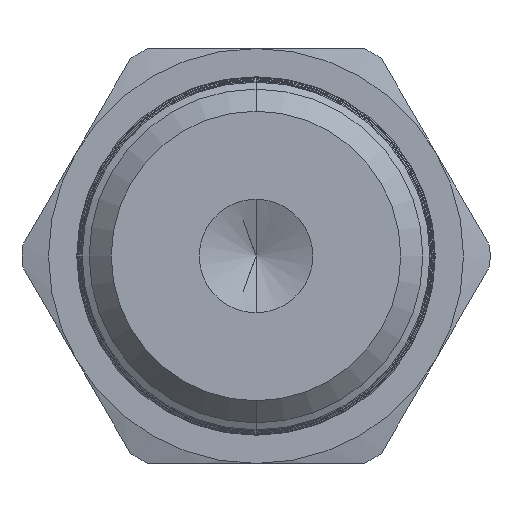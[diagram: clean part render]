
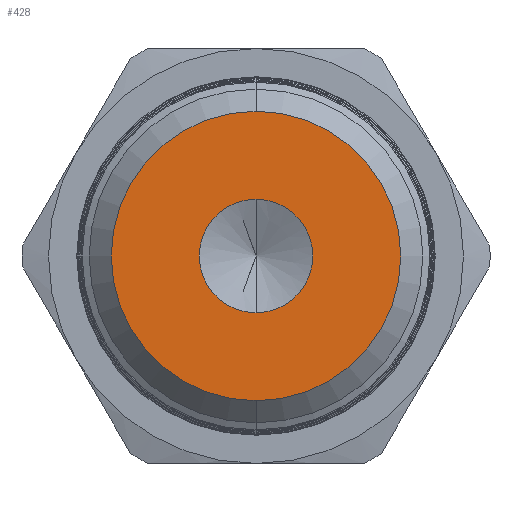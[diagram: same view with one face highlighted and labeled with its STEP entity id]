
A CAD part, left-side view. The second image highlights one B-rep face of the part: STEP entity #428.
In plain terms, the highlighted planar face has unit normal (-1, 0, 0).
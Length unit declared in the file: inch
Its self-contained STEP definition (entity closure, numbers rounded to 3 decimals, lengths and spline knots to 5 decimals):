
#428 = ADVANCED_FACE ( 'NONE', ( #2066, #2081 ), #2064, .F. ) ;
#924 = AXIS2_PLACEMENT_3D ( 'NONE', #2073, #2062, #2061 ) ;
#2061 = DIRECTION ( 'NONE',  ( 0., 0., -1. ) ) ;
#2062 = DIRECTION ( 'NONE',  ( 1., 0., 0. ) ) ;
#2064 = PLANE ( 'NONE',  #924 ) ;
#2066 = FACE_OUTER_BOUND ( 'NONE', #8168, .T. ) ;
#2073 = CARTESIAN_POINT ( 'NONE',  ( -0.1385, 0.36084, 0. ) ) ;
#2081 = FACE_BOUND ( 'NONE', #8183, .T. ) ;
#2228 = EDGE_CURVE ( 'NONE', #16257, #16228, #16932, .T. ) ;
#2450 = EDGE_CURVE ( 'NONE', #16287, #16173, #16783, .T. ) ;
#2457 = EDGE_CURVE ( 'NONE', #16228, #16257, #16791, .T. ) ;
#2472 = EDGE_CURVE ( 'NONE', #16173, #16287, #16805, .T. ) ;
#6527 = DIRECTION ( 'NONE',  ( 0., 0., -1. ) ) ;
#6528 = DIRECTION ( 'NONE',  ( 1., 0., 0. ) ) ;
#6529 = CARTESIAN_POINT ( 'NONE',  ( -0.1385, 0., 0. ) ) ;
#6586 = DIRECTION ( 'NONE',  ( 0., 0., 1. ) ) ;
#6587 = DIRECTION ( 'NONE',  ( -1., 0., 0. ) ) ;
#6588 = CARTESIAN_POINT ( 'NONE',  ( -0.1385, 0., 0. ) ) ;
#6617 = DIRECTION ( 'NONE',  ( 0., 0., -1. ) ) ;
#6618 = DIRECTION ( 'NONE',  ( 1., 0., 0. ) ) ;
#6619 = CARTESIAN_POINT ( 'NONE',  ( -0.1385, 0., 0. ) ) ;
#6976 = DIRECTION ( 'NONE',  ( 0., 0., 1. ) ) ;
#6977 = DIRECTION ( 'NONE',  ( -1., 0., 0. ) ) ;
#6978 = CARTESIAN_POINT ( 'NONE',  ( -0.1385, 0., 0. ) ) ;
#7512 = CARTESIAN_POINT ( 'NONE',  ( -0.1385, 0., 0.21799 ) ) ;
#7567 = CARTESIAN_POINT ( 'NONE',  ( -0.1385, 0., 0.0855 ) ) ;
#7596 = CARTESIAN_POINT ( 'NONE',  ( -0.1385, 0., -0.0855 ) ) ;
#7626 = CARTESIAN_POINT ( 'NONE',  ( -0.1385, 0., -0.21799 ) ) ;
#8168 = EDGE_LOOP ( 'NONE', ( #8691, #8692 ) ) ;
#8183 = EDGE_LOOP ( 'NONE', ( #8693, #8694 ) ) ;
#8691 = ORIENTED_EDGE ( 'NONE', *, *, #2450, .F. ) ;
#8692 = ORIENTED_EDGE ( 'NONE', *, *, #2472, .F. ) ;
#8693 = ORIENTED_EDGE ( 'NONE', *, *, #2457, .F. ) ;
#8694 = ORIENTED_EDGE ( 'NONE', *, *, #2228, .F. ) ;
#16173 = VERTEX_POINT ( 'NONE', #7512 ) ;
#16228 = VERTEX_POINT ( 'NONE', #7567 ) ;
#16257 = VERTEX_POINT ( 'NONE', #7596 ) ;
#16287 = VERTEX_POINT ( 'NONE', #7626 ) ;
#16783 = CIRCLE ( 'NONE', #16786, 0.21799 ) ;
#16786 = AXIS2_PLACEMENT_3D ( 'NONE', #6619, #6618, #6617 ) ;
#16788 = AXIS2_PLACEMENT_3D ( 'NONE', #6588, #6587, #6586 ) ;
#16791 = CIRCLE ( 'NONE', #16788, 0.0855 ) ;
#16805 = CIRCLE ( 'NONE', #16808, 0.21799 ) ;
#16808 = AXIS2_PLACEMENT_3D ( 'NONE', #6529, #6528, #6527 ) ;
#16929 = AXIS2_PLACEMENT_3D ( 'NONE', #6978, #6977, #6976 ) ;
#16932 = CIRCLE ( 'NONE', #16929, 0.0855 ) ;
